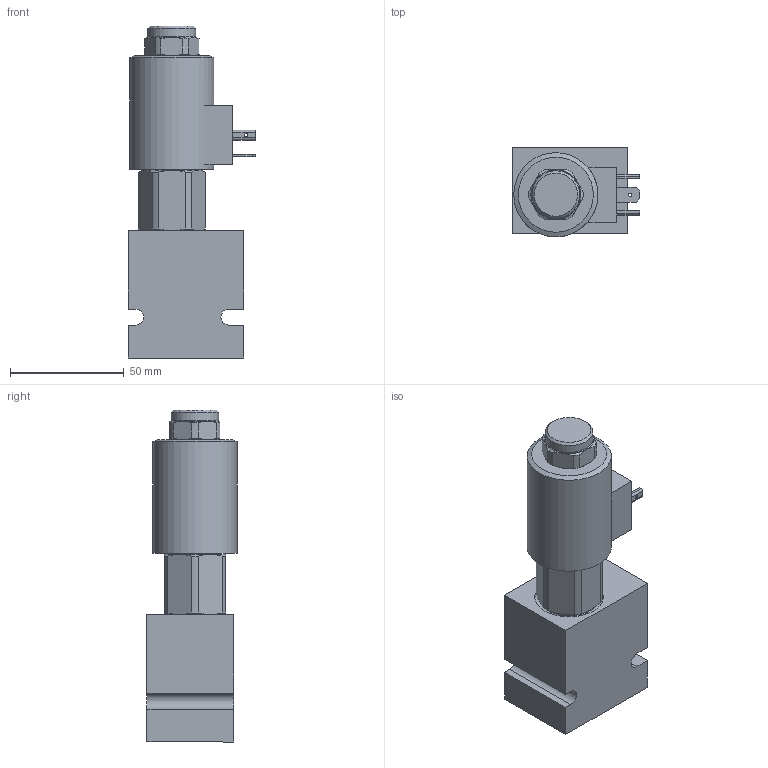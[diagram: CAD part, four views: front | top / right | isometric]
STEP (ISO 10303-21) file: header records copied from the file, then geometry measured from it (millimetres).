
FILE_DESCRIPTION(/* description */ ('Unknown'),/* implementation_level */ '2;1');
FILE_NAME(/* name */ 'D-EEPRB00-B2',/* time_stamp */ '2018-07-24T12:09:53+01:00',/* author */ ('Unknown'),/* organization */ ('Unknown'),/* preprocessor_version */ 'ST-DEVELOPER v16.7',/* originating_system */ 'DEX',/* authorisation */ $);
FILE_SCHEMA (('AUTOMOTIVE_DESIGN {1 0 10303 214 3 1 1}'));
Length unit declared in the file: millimetre
Products named in the file (6): EE-PRB; EE-PRB-0C; B-DDEB2; T-600205173; T-60.0205.178_Main; PT-EL-HC-TerminalConnectors
Assembly tree (5 placements, depth 3):
  EE-PRB
    EE-PRB-0C
    B-DDEB2
    T-600205173
      T-60.0205.178_Main
      PT-EL-HC-TerminalConnectors
Bounding box: 55.92 x 39.6 x 146 mm (x, y, z)
Volume: 175531.8 mm3; surface area: 41262.9 mm2
Topology: 7 solids, 7 shells, 293 faces, 682 edges, 437 vertices
Faces by surface type: plane 145, cylinder 85, cone 57, torus 6
Full cylindrical faces by diameter (mm): 0.2 x2, 0.5 x1, 1 x1, 1.5 x3, 3.175 x8, 9.53 x1, 12 x1, 13.043 x3, 14 x1, 14.95 x2, 15 x2, 15.7 x1, 15.799 x2, 15.9 x1, 16.5 x2, 17.043 x1, 17.5 x1, 19 x5, 19.05 x1, 19.4 x1, 19.6 x2, 20 x1, 20.262 x2, 21 x1, 22 x1, 22.5 x1, 24.2 x2, 26 x1, 30.175 x1, 37 x1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
Entity records: 8722 total; most frequent: CARTESIAN_POINT 1970, DIRECTION 1203, ORIENTED_EDGE 1106, EDGE_CURVE 553, AXIS2_PLACEMENT_3D 499, FACE_BOUND 433, EDGE_LOOP 432, VERTEX_POINT 402
